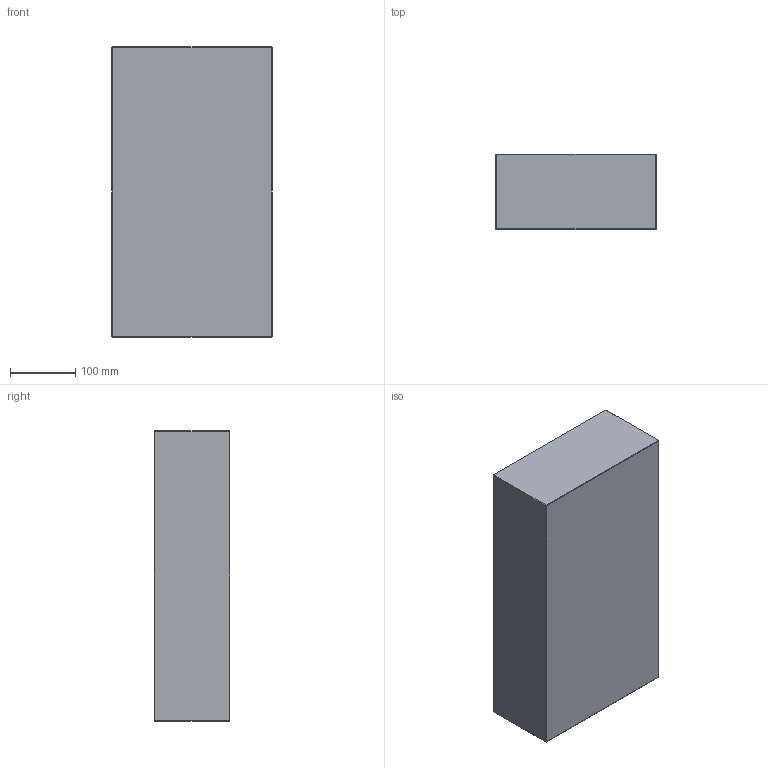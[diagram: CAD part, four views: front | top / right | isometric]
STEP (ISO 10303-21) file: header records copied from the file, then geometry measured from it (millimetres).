
FILE_DESCRIPTION (( 'STEP AP214' ), '1' );
FILE_NAME ('PC-P-246x446x116.STEP', '2020-04-01T09:28:59', ( 'August' ), ( '' ), 'SwSTEP 2.0', 'SolidWorks 2018', '' );
FILE_SCHEMA (( 'AUTOMOTIVE_DESIGN' ));
Length unit declared in the file: millimetre
Products named in the file (1): PC-P-246x446x116
Bounding box: 246 x 116 x 446 mm (x, y, z)
Volume: 12725445.3 mm3; surface area: 378079.7 mm2
Topology: 1 solids, 1 shells, 26 faces, 48 edges, 24 vertices
Faces by surface type: plane 26
Entity records: 634 total; most frequent: DIRECTION 102, CARTESIAN_POINT 99, ORIENTED_EDGE 96, VECTOR 48, LINE 48, EDGE_CURVE 48, AXIS2_PLACEMENT_3D 27, PLANE 26
